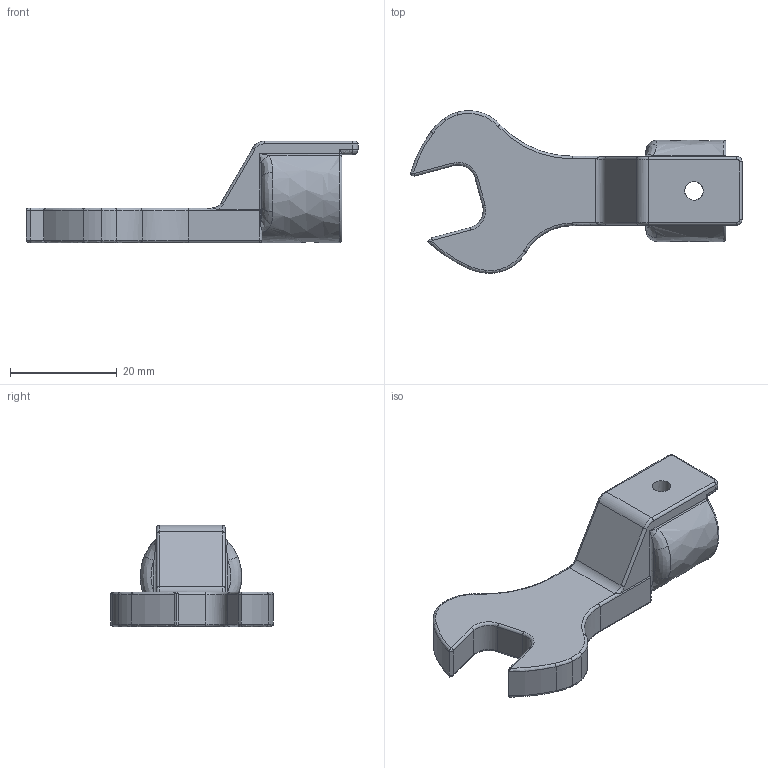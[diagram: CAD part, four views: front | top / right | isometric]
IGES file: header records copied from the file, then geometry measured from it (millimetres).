
Global section: file name: SH12DX12; native system: Autodesk Inventor 2016; preprocessor: unknown; author: Q532; date: 20151029.190336; units: millimetre
Bounding box: 62.21 x 30.47 x 19 mm (x, y, z)
Volume: 7947.7 mm3; surface area: 4307.6 mm2
Topology: 1 solids, 1 shells, 125 faces, 304 edges, 176 vertices
Faces by surface type: bspline 125
